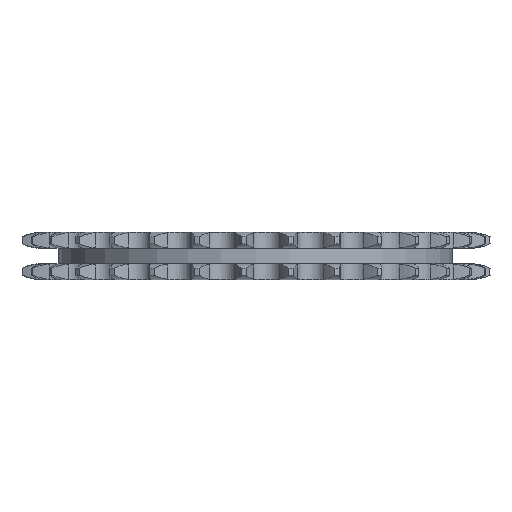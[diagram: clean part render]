
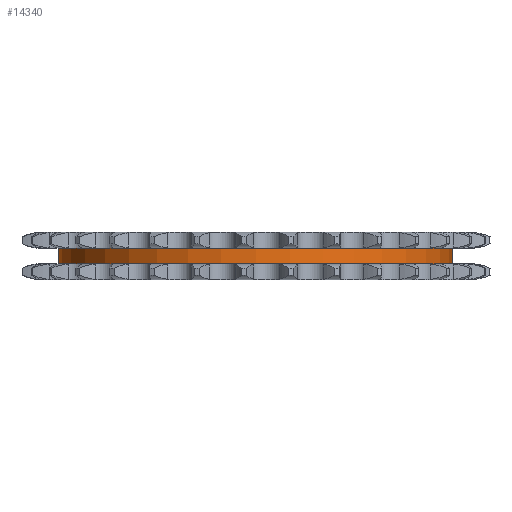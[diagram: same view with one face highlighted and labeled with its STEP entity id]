
A CAD part, left-side view. The second image highlights one B-rep face of the part: STEP entity #14340.
In plain terms, the highlighted cylindrical face has radius 34.538 mm (diameter 69.076 mm), a partial arc.
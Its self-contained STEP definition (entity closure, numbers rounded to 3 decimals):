
#1810=DIRECTION('',(0.,0.,-1.));
#1811=VECTOR('',#1810,2.7);
#1812=CARTESIAN_POINT('',(0.,34.538,1.35));
#1813=LINE('',#1812,#1811);
#1817=CARTESIAN_POINT('',(0.,0.,1.35));
#1818=DIRECTION('',(0.,0.,1.));
#1819=DIRECTION('',(0.,1.,0.));
#1820=AXIS2_PLACEMENT_3D('',#1817,#1818,#1819);
#1825=DIRECTION('',(0.,0.,-1.));
#1826=VECTOR('',#1825,2.7);
#1827=CARTESIAN_POINT('',(0.,-34.538,1.35));
#1828=LINE('',#1827,#1826);
#1832=CARTESIAN_POINT('',(0.,0.,-1.35));
#1833=DIRECTION('',(0.,0.,1.));
#1834=DIRECTION('',(0.,1.,0.));
#1835=AXIS2_PLACEMENT_3D('',#1832,#1833,#1834);
#11181=CARTESIAN_POINT('',(0.,34.538,1.35));
#11182=CARTESIAN_POINT('',(0.,34.538,-1.35));
#11183=VERTEX_POINT('',#11181);
#11184=VERTEX_POINT('',#11182);
#11185=CARTESIAN_POINT('',(0.,-34.538,1.35));
#11186=CARTESIAN_POINT('',(0.,-34.538,-1.35));
#11187=VERTEX_POINT('',#11185);
#11188=VERTEX_POINT('',#11186);
#14328=CARTESIAN_POINT('',(0.,0.,1.485));
#14329=DIRECTION('',(0.,0.,-1.));
#14330=DIRECTION('',(0.,-1.,0.));
#14331=AXIS2_PLACEMENT_3D('',#14328,#14329,#14330);
#14332=CYLINDRICAL_SURFACE('',#14331,34.538);
#14333=ORIENTED_EDGE('',*,*,#14318,.F.);
#14334=ORIENTED_EDGE('',*,*,#14308,.T.);
#14335=ORIENTED_EDGE('',*,*,#14322,.T.);
#14337=ORIENTED_EDGE('',*,*,#14336,.F.);
#14338=EDGE_LOOP('',(#14333,#14334,#14335,#14337));
#14339=FACE_OUTER_BOUND('',#14338,.F.);
#14340=ADVANCED_FACE('',(#14339),#14332,.T.);
#1821=CIRCLE('',#1820,34.538);
#1836=CIRCLE('',#1835,34.538);
#14308=EDGE_CURVE('',#11183,#11187,#1821,.T.);
#14318=EDGE_CURVE('',#11183,#11184,#1813,.T.);
#14322=EDGE_CURVE('',#11187,#11188,#1828,.T.);
#14336=EDGE_CURVE('',#11184,#11188,#1836,.T.);
